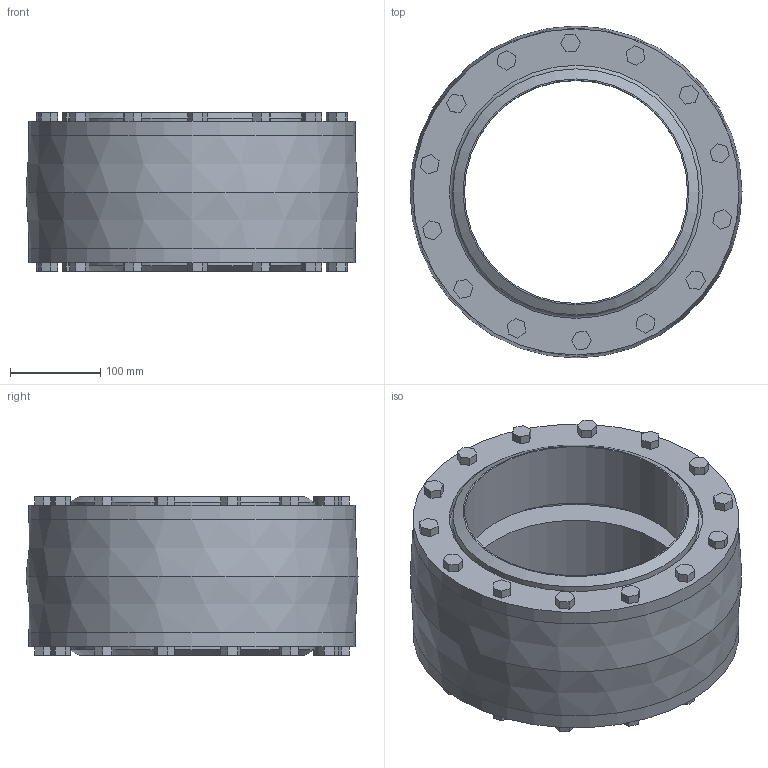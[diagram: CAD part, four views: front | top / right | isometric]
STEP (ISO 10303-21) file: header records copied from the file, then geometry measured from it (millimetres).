
FILE_DESCRIPTION(/* description */ ('VIC EXPANSION JOINT COUPLING 152-A','CAx-IF Rec.Pracs.---Representation and Presentation of Product Manufacturing Information (PMI)---4.0---2014-10-13'),/* implementation_level */ '2;1');
FILE_NAME(/* name */ 'C:\Users\kkamble\AppData\Roaming\Autodesk\ApplicationPlugins\Back Up\Victaulic_Vic-Ring_Coupling Expansion Joint_Style 152A (OGR)\Victaulic_Vic-Ring_Coupling Expansion Joint_Style 152A (OGR)_10 (250).stp',/* time_stamp */ '2020-09-10T11:33:37+05:00',/* author */ ('jheald'),/* organization */ ('Victaulic'),/* preprocessor_version */ 'ST-DEVELOPER v17.2',/* originating_system */ 'Autodesk Inventor 2019',/* authorisation */ '');
FILE_SCHEMA (('AP242_MANAGED_MODEL_BASED_3D_ENGINEERING_MIM_LF { 1 0 10303 442 1 1 4 }'));
Length unit declared in the file: inch
Products named in the file (1): 152A-10.0
Bounding box: 368.5 x 368.5 x 176.28 mm (x, y, z)
Volume: 7861703.8 mm3; surface area: 809081.8 mm2
Topology: 1 solids, 1 shells, 233 faces, 603 edges, 412 vertices
Faces by surface type: plane 210, cylinder 15, cone 6, torus 2
Full cylindrical faces by diameter (mm): 247.65 x2, 273.05 x2, 280.924 x2, 287.528 x2, 308.102 x4, 311.15 x1, 361.95 x2
Entity records: 7460 total; most frequent: CARTESIAN_POINT 1266, ORIENTED_EDGE 1206, DIRECTION 1175, EDGE_CURVE 603, LINE 525, VECTOR 525, VERTEX_POINT 412, AXIS2_PLACEMENT_3D 325
